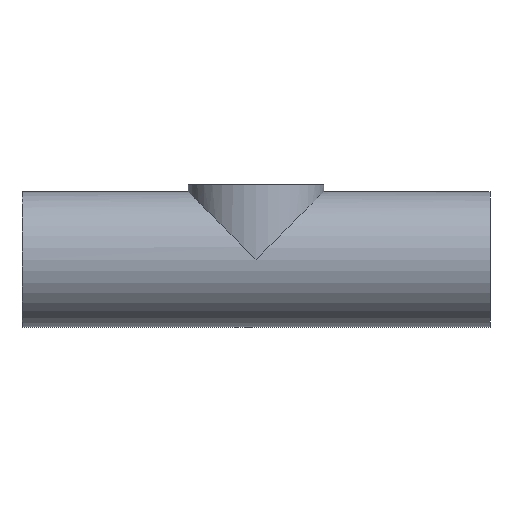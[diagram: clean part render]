
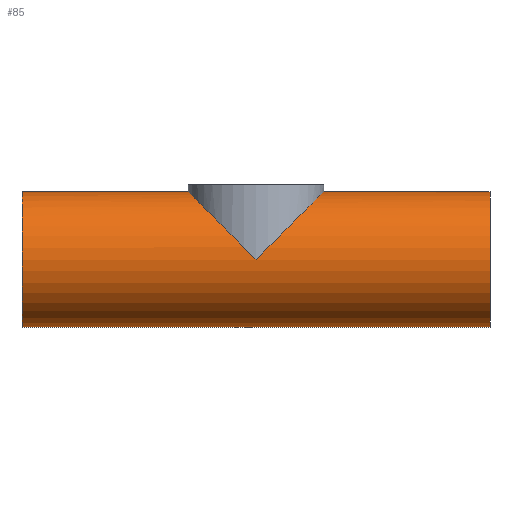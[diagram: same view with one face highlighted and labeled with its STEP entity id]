
A CAD part, front view. The second image highlights one B-rep face of the part: STEP entity #85.
In plain terms, the highlighted cylindrical face has radius 14.5 mm (diameter 29 mm), a full revolution.
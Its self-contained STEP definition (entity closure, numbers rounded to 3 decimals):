
#21 = EDGE_CURVE('',#22,#22,#24,.T.);
#22 = VERTEX_POINT('',#23);
#23 = CARTESIAN_POINT('',(-50.,0.,-14.5));
#24 = SURFACE_CURVE('',#25,(#30,#42),.PCURVE_S1.);
#25 = CIRCLE('',#26,14.5);
#26 = AXIS2_PLACEMENT_3D('',#27,#28,#29);
#27 = CARTESIAN_POINT('',(-50.,0.,0.));
#28 = DIRECTION('',(1.,-0.,0.));
#29 = DIRECTION('',(0.,0.,-1.));
#30 = PCURVE('',#31,#36);
#31 = PLANE('',#32);
#32 = AXIS2_PLACEMENT_3D('',#33,#34,#35);
#33 = CARTESIAN_POINT('',(-50.,0.,0.));
#34 = DIRECTION('',(1.,0.,0.));
#35 = DIRECTION('',(0.,0.,-1.));
#36 = DEFINITIONAL_REPRESENTATION('',(#37),#41);
#37 = CIRCLE('',#38,14.5);
#38 = AXIS2_PLACEMENT_2D('',#39,#40);
#39 = CARTESIAN_POINT('',(0.,0.));
#40 = DIRECTION('',(1.,0.));
#41 = ( GEOMETRIC_REPRESENTATION_CONTEXT(2) 
PARAMETRIC_REPRESENTATION_CONTEXT() REPRESENTATION_CONTEXT('2D SPACE',''
  ) );
#42 = PCURVE('',#43,#48);
#43 = CYLINDRICAL_SURFACE('',#44,14.5);
#44 = AXIS2_PLACEMENT_3D('',#45,#46,#47);
#45 = CARTESIAN_POINT('',(-50.,0.,0.));
#46 = DIRECTION('',(1.,0.,0.));
#47 = DIRECTION('',(0.,0.,-1.));
#48 = DEFINITIONAL_REPRESENTATION('',(#49),#53);
#49 = LINE('',#50,#51);
#50 = CARTESIAN_POINT('',(0.,0.));
#51 = VECTOR('',#52,1.);
#52 = DIRECTION('',(1.,0.));
#53 = ( GEOMETRIC_REPRESENTATION_CONTEXT(2) 
PARAMETRIC_REPRESENTATION_CONTEXT() REPRESENTATION_CONTEXT('2D SPACE',''
  ) );
#85 = ADVANCED_FACE('',(#86,#140),#43,.T.);
#86 = FACE_BOUND('',#87,.T.);
#87 = EDGE_LOOP('',(#88,#111,#138,#139));
#88 = ORIENTED_EDGE('',*,*,#89,.T.);
#89 = EDGE_CURVE('',#22,#90,#92,.T.);
#90 = VERTEX_POINT('',#91);
#91 = CARTESIAN_POINT('',(50.,0.,-14.5));
#92 = SEAM_CURVE('',#93,(#97,#104),.PCURVE_S1.);
#93 = LINE('',#94,#95);
#94 = CARTESIAN_POINT('',(-50.,0.,-14.5));
#95 = VECTOR('',#96,1.);
#96 = DIRECTION('',(1.,0.,0.));
#97 = PCURVE('',#43,#98);
#98 = DEFINITIONAL_REPRESENTATION('',(#99),#103);
#99 = LINE('',#100,#101);
#100 = CARTESIAN_POINT('',(6.283,-0.));
#101 = VECTOR('',#102,1.);
#102 = DIRECTION('',(0.,1.));
#103 = ( GEOMETRIC_REPRESENTATION_CONTEXT(2) 
PARAMETRIC_REPRESENTATION_CONTEXT() REPRESENTATION_CONTEXT('2D SPACE',''
  ) );
#104 = PCURVE('',#43,#105);
#105 = DEFINITIONAL_REPRESENTATION('',(#106),#110);
#106 = LINE('',#107,#108);
#107 = CARTESIAN_POINT('',(0.,-0.));
#108 = VECTOR('',#109,1.);
#109 = DIRECTION('',(0.,1.));
#110 = ( GEOMETRIC_REPRESENTATION_CONTEXT(2) 
PARAMETRIC_REPRESENTATION_CONTEXT() REPRESENTATION_CONTEXT('2D SPACE',''
  ) );
#111 = ORIENTED_EDGE('',*,*,#112,.F.);
#112 = EDGE_CURVE('',#90,#90,#113,.T.);
#113 = SURFACE_CURVE('',#114,(#119,#126),.PCURVE_S1.);
#114 = CIRCLE('',#115,14.5);
#115 = AXIS2_PLACEMENT_3D('',#116,#117,#118);
#116 = CARTESIAN_POINT('',(50.,0.,0.));
#117 = DIRECTION('',(1.,-0.,0.));
#118 = DIRECTION('',(0.,0.,-1.));
#119 = PCURVE('',#43,#120);
#120 = DEFINITIONAL_REPRESENTATION('',(#121),#125);
#121 = LINE('',#122,#123);
#122 = CARTESIAN_POINT('',(0.,100.));
#123 = VECTOR('',#124,1.);
#124 = DIRECTION('',(1.,0.));
#125 = ( GEOMETRIC_REPRESENTATION_CONTEXT(2) 
PARAMETRIC_REPRESENTATION_CONTEXT() REPRESENTATION_CONTEXT('2D SPACE',''
  ) );
#126 = PCURVE('',#127,#132);
#127 = PLANE('',#128);
#128 = AXIS2_PLACEMENT_3D('',#129,#130,#131);
#129 = CARTESIAN_POINT('',(50.,0.,0.));
#130 = DIRECTION('',(1.,0.,0.));
#131 = DIRECTION('',(0.,0.,-1.));
#132 = DEFINITIONAL_REPRESENTATION('',(#133),#137);
#133 = CIRCLE('',#134,14.5);
#134 = AXIS2_PLACEMENT_2D('',#135,#136);
#135 = CARTESIAN_POINT('',(0.,0.));
#136 = DIRECTION('',(1.,0.));
#137 = ( GEOMETRIC_REPRESENTATION_CONTEXT(2) 
PARAMETRIC_REPRESENTATION_CONTEXT() REPRESENTATION_CONTEXT('2D SPACE',''
  ) );
#138 = ORIENTED_EDGE('',*,*,#89,.F.);
#139 = ORIENTED_EDGE('',*,*,#21,.T.);
#140 = FACE_BOUND('',#141,.T.);
#141 = EDGE_LOOP('',(#142,#189,#225));
#142 = ORIENTED_EDGE('',*,*,#143,.F.);
#143 = EDGE_CURVE('',#144,#146,#148,.T.);
#144 = VERTEX_POINT('',#145);
#145 = CARTESIAN_POINT('',(0.,14.5,0.));
#146 = VERTEX_POINT('',#147);
#147 = CARTESIAN_POINT('',(0.,-14.5,0.));
#148 = SURFACE_CURVE('',#149,(#154,#169),.PCURVE_S1.);
#149 = ELLIPSE('',#150,20.506,14.5);
#150 = AXIS2_PLACEMENT_3D('',#151,#152,#153);
#151 = CARTESIAN_POINT('',(0.,0.,0.));
#152 = DIRECTION('',(0.707,-0.,0.707));
#153 = DIRECTION('',(0.707,0.,-0.707));
#154 = PCURVE('',#43,#155);
#155 = DEFINITIONAL_REPRESENTATION('',(#156),#168);
#156 = B_SPLINE_CURVE_WITH_KNOTS('',10,(#157,#158,#159,#160,#161,#162,
    #163,#164,#165,#166,#167),.UNSPECIFIED.,.F.,.F.,(11,11),(
    1.571,4.712),.PIECEWISE_BEZIER_KNOTS.);
#157 = CARTESIAN_POINT('',(1.571,50.));
#158 = CARTESIAN_POINT('',(1.885,45.445));
#159 = CARTESIAN_POINT('',(2.199,40.889));
#160 = CARTESIAN_POINT('',(2.513,36.959));
#161 = CARTESIAN_POINT('',(2.827,34.277));
#162 = CARTESIAN_POINT('',(3.142,33.321));
#163 = CARTESIAN_POINT('',(3.456,34.277));
#164 = CARTESIAN_POINT('',(3.77,36.959));
#165 = CARTESIAN_POINT('',(4.084,40.889));
#166 = CARTESIAN_POINT('',(4.398,45.445));
#167 = CARTESIAN_POINT('',(4.712,50.));
#168 = ( GEOMETRIC_REPRESENTATION_CONTEXT(2) 
PARAMETRIC_REPRESENTATION_CONTEXT() REPRESENTATION_CONTEXT('2D SPACE',''
  ) );
#169 = PCURVE('',#170,#175);
#170 = CYLINDRICAL_SURFACE('',#171,14.5);
#171 = AXIS2_PLACEMENT_3D('',#172,#173,#174);
#172 = CARTESIAN_POINT('',(0.,0.,0.));
#173 = DIRECTION('',(0.,0.,1.));
#174 = DIRECTION('',(1.,0.,0.));
#175 = DEFINITIONAL_REPRESENTATION('',(#176),#188);
#176 = B_SPLINE_CURVE_WITH_KNOTS('',10,(#177,#178,#179,#180,#181,#182,
    #183,#184,#185,#186,#187),.UNSPECIFIED.,.F.,.F.,(11,11),(
    1.571,4.712),.PIECEWISE_BEZIER_KNOTS.);
#177 = CARTESIAN_POINT('',(1.571,0.));
#178 = CARTESIAN_POINT('',(1.885,4.555));
#179 = CARTESIAN_POINT('',(2.199,9.111));
#180 = CARTESIAN_POINT('',(2.513,13.041));
#181 = CARTESIAN_POINT('',(2.827,15.723));
#182 = CARTESIAN_POINT('',(3.142,16.679));
#183 = CARTESIAN_POINT('',(3.456,15.723));
#184 = CARTESIAN_POINT('',(3.77,13.041));
#185 = CARTESIAN_POINT('',(4.084,9.111));
#186 = CARTESIAN_POINT('',(4.398,4.555));
#187 = CARTESIAN_POINT('',(4.712,0.));
#188 = ( GEOMETRIC_REPRESENTATION_CONTEXT(2) 
PARAMETRIC_REPRESENTATION_CONTEXT() REPRESENTATION_CONTEXT('2D SPACE',''
  ) );
#189 = ORIENTED_EDGE('',*,*,#190,.T.);
#190 = EDGE_CURVE('',#144,#191,#193,.T.);
#191 = VERTEX_POINT('',#192);
#192 = CARTESIAN_POINT('',(14.5,0.,14.5));
#193 = SURFACE_CURVE('',#194,(#199,#212),.PCURVE_S1.);
#194 = ELLIPSE('',#195,20.506,14.5);
#195 = AXIS2_PLACEMENT_3D('',#196,#197,#198);
#196 = CARTESIAN_POINT('',(0.,0.,0.));
#197 = DIRECTION('',(0.707,0.,-0.707));
#198 = DIRECTION('',(0.707,0.,0.707));
#199 = PCURVE('',#43,#200);
#200 = DEFINITIONAL_REPRESENTATION('',(#201),#211);
#201 = B_SPLINE_CURVE_WITH_KNOTS('',8,(#202,#203,#204,#205,#206,#207,
    #208,#209,#210),.UNSPECIFIED.,.F.,.F.,(9,9),(4.712,
    6.283),.PIECEWISE_BEZIER_KNOTS.);
#202 = CARTESIAN_POINT('',(1.571,50.));
#203 = CARTESIAN_POINT('',(1.767,52.847));
#204 = CARTESIAN_POINT('',(1.963,55.694));
#205 = CARTESIAN_POINT('',(2.16,58.374));
#206 = CARTESIAN_POINT('',(2.356,60.719));
#207 = CARTESIAN_POINT('',(2.553,62.583));
#208 = CARTESIAN_POINT('',(2.749,63.861));
#209 = CARTESIAN_POINT('',(2.945,64.5));
#210 = CARTESIAN_POINT('',(3.142,64.5));
#211 = ( GEOMETRIC_REPRESENTATION_CONTEXT(2) 
PARAMETRIC_REPRESENTATION_CONTEXT() REPRESENTATION_CONTEXT('2D SPACE',''
  ) );
#212 = PCURVE('',#170,#213);
#213 = DEFINITIONAL_REPRESENTATION('',(#214),#224);
#214 = B_SPLINE_CURVE_WITH_KNOTS('',8,(#215,#216,#217,#218,#219,#220,
    #221,#222,#223),.UNSPECIFIED.,.F.,.F.,(9,9),(4.712,
    6.283),.PIECEWISE_BEZIER_KNOTS.);
#215 = CARTESIAN_POINT('',(1.571,0.));
#216 = CARTESIAN_POINT('',(1.374,2.847));
#217 = CARTESIAN_POINT('',(1.178,5.694));
#218 = CARTESIAN_POINT('',(0.982,8.374));
#219 = CARTESIAN_POINT('',(0.785,10.719));
#220 = CARTESIAN_POINT('',(0.589,12.583));
#221 = CARTESIAN_POINT('',(0.393,13.861));
#222 = CARTESIAN_POINT('',(0.196,14.5));
#223 = CARTESIAN_POINT('',(0.,14.5));
#224 = ( GEOMETRIC_REPRESENTATION_CONTEXT(2) 
PARAMETRIC_REPRESENTATION_CONTEXT() REPRESENTATION_CONTEXT('2D SPACE',''
  ) );
#225 = ORIENTED_EDGE('',*,*,#226,.T.);
#226 = EDGE_CURVE('',#191,#146,#227,.T.);
#227 = SURFACE_CURVE('',#228,(#233,#246),.PCURVE_S1.);
#228 = ELLIPSE('',#229,20.506,14.5);
#229 = AXIS2_PLACEMENT_3D('',#230,#231,#232);
#230 = CARTESIAN_POINT('',(0.,0.,0.));
#231 = DIRECTION('',(0.707,0.,-0.707));
#232 = DIRECTION('',(0.707,0.,0.707));
#233 = PCURVE('',#43,#234);
#234 = DEFINITIONAL_REPRESENTATION('',(#235),#245);
#235 = B_SPLINE_CURVE_WITH_KNOTS('',8,(#236,#237,#238,#239,#240,#241,
    #242,#243,#244),.UNSPECIFIED.,.F.,.F.,(9,9),(0.,1.571),
  .PIECEWISE_BEZIER_KNOTS.);
#236 = CARTESIAN_POINT('',(3.142,64.5));
#237 = CARTESIAN_POINT('',(3.338,64.5));
#238 = CARTESIAN_POINT('',(3.534,63.861));
#239 = CARTESIAN_POINT('',(3.731,62.583));
#240 = CARTESIAN_POINT('',(3.927,60.719));
#241 = CARTESIAN_POINT('',(4.123,58.374));
#242 = CARTESIAN_POINT('',(4.32,55.694));
#243 = CARTESIAN_POINT('',(4.516,52.847));
#244 = CARTESIAN_POINT('',(4.712,50.));
#245 = ( GEOMETRIC_REPRESENTATION_CONTEXT(2) 
PARAMETRIC_REPRESENTATION_CONTEXT() REPRESENTATION_CONTEXT('2D SPACE',''
  ) );
#246 = PCURVE('',#170,#247);
#247 = DEFINITIONAL_REPRESENTATION('',(#248),#258);
#248 = B_SPLINE_CURVE_WITH_KNOTS('',8,(#249,#250,#251,#252,#253,#254,
    #255,#256,#257),.UNSPECIFIED.,.F.,.F.,(9,9),(0.,1.571),
  .PIECEWISE_BEZIER_KNOTS.);
#249 = CARTESIAN_POINT('',(6.283,14.5));
#250 = CARTESIAN_POINT('',(6.087,14.5));
#251 = CARTESIAN_POINT('',(5.89,13.861));
#252 = CARTESIAN_POINT('',(5.694,12.583));
#253 = CARTESIAN_POINT('',(5.498,10.719));
#254 = CARTESIAN_POINT('',(5.301,8.374));
#255 = CARTESIAN_POINT('',(5.105,5.694));
#256 = CARTESIAN_POINT('',(4.909,2.847));
#257 = CARTESIAN_POINT('',(4.712,0.));
#258 = ( GEOMETRIC_REPRESENTATION_CONTEXT(2) 
PARAMETRIC_REPRESENTATION_CONTEXT() REPRESENTATION_CONTEXT('2D SPACE',''
  ) );
